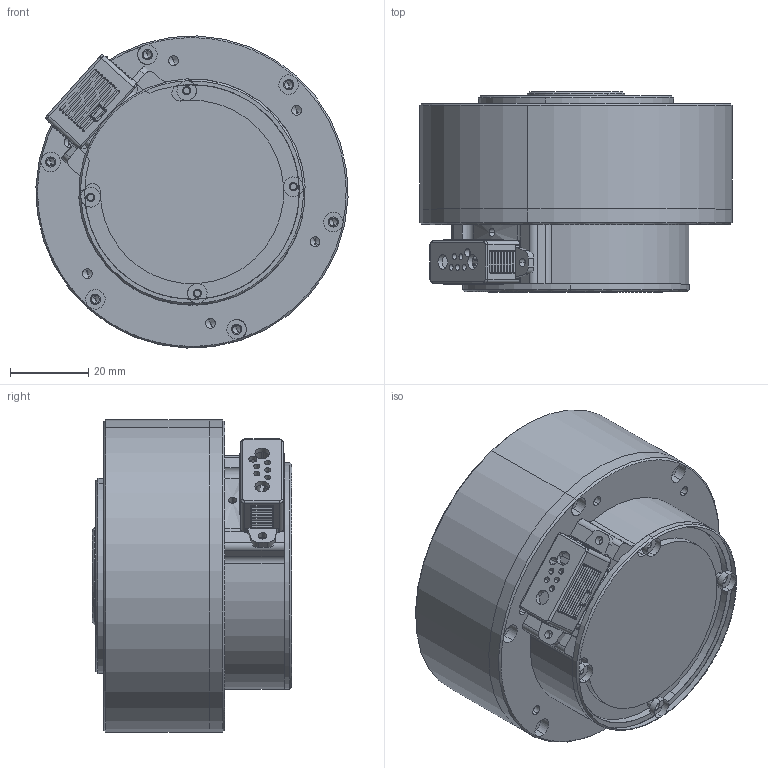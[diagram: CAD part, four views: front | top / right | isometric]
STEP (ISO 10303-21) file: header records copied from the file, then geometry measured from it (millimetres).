
FILE_DESCRIPTION (( 'STEP AP203' ), '1' );
FILE_NAME ('AKA60-6.STEP', '2024-11-06T08:57:00', ( 'Windows User' ), ( 'P R C' ), 'SwSTEP 2.0', 'SolidWorks 2022', '' );
FILE_SCHEMA (( 'CONFIG_CONTROL_DESIGN' ));
Length unit declared in the file: millimetre
Products named in the file (19): AKA60-6; MANIFOLD_SOLID_BREP_269.stp; MANIFOLD_SOLID_BREP_266.stp; 下行星架; MANIFOLD_SOLID_BREP_268.stp; MANIFOLD_SOLID_BREP_265.stp; ADMI0CB41306IMH5_ASM.stp; MANIFOLD_SOLID_BREP_287.stp; MANIFOLD_SOLID_BREP_267.stp; MANIFOLD_SOLID_BREP_264.stp; 后机壳; 前机壳; C0207000184-接插件母头-A.stp; 母头护线套; 685; MANIFOLD_SOLID_BREP_263.stp; MANIFOLD_SOLID_BREP_270.stp; 上盖板; 接插件母头
Assembly tree (18 placements, depth 5):
  AKA60-6
    下行星架
    前机壳
    685
    后机壳
    上盖板
    接插件母头
      C0207000184-接插件母头-A.stp
        ADMI0CB41306IMH5_ASM.stp
          MANIFOLD_SOLID_BREP_263.stp
          MANIFOLD_SOLID_BREP_264.stp
          MANIFOLD_SOLID_BREP_265.stp
          MANIFOLD_SOLID_BREP_266.stp
          MANIFOLD_SOLID_BREP_267.stp
          MANIFOLD_SOLID_BREP_268.stp
          MANIFOLD_SOLID_BREP_269.stp
          MANIFOLD_SOLID_BREP_270.stp
          MANIFOLD_SOLID_BREP_287.stp
    母头护线套
Bounding box: 79.95 x 51.2 x 79.95 mm (x, y, z)
Volume: 62426.2 mm3; surface area: 54360.4 mm2
Topology: 15 solids, 15 shells, 1237 faces, 3187 edges, 1926 vertices
Faces by surface type: cylinder 648, plane 296, cone 154, sphere 103, bspline 28, torus 8
Entity records: 44329 total; most frequent: CARTESIAN_POINT 12166, DIRECTION 6879, ORIENTED_EDGE 5938, EDGE_CURVE 2969, AXIS2_PLACEMENT_3D 2787, VERTEX_POINT 1892, CIRCLE 1554, EDGE_LOOP 1469
